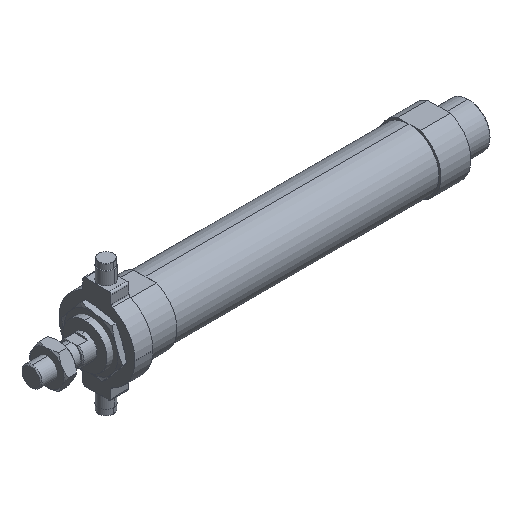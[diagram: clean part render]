
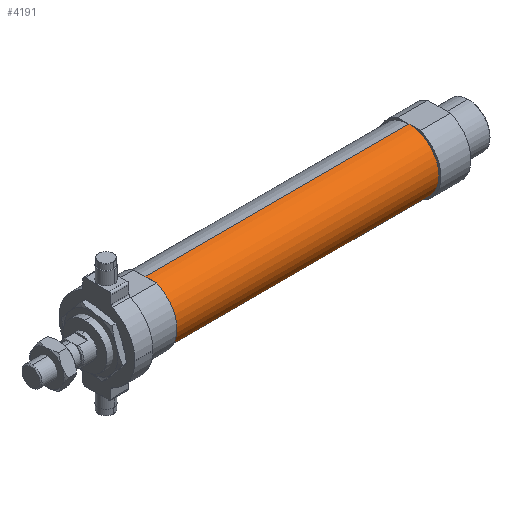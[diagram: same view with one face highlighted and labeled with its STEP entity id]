
A CAD part, isometric view. The second image highlights one B-rep face of the part: STEP entity #4191.
In plain terms, the highlighted cylindrical face has radius 15 mm (diameter 30 mm), a partial arc.
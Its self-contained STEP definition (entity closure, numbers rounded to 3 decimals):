
#63 = AXIS2_PLACEMENT_3D ( 'NONE', #3475, #1224, #561 ) ;
#209 = CARTESIAN_POINT ( 'NONE',  ( -6.469, 0., 15. ) ) ;
#305 = EDGE_LOOP ( 'NONE', ( #886, #2725, #2090, #322 ) ) ;
#322 = ORIENTED_EDGE ( 'NONE', *, *, #1768, .F. ) ;
#542 = VERTEX_POINT ( 'NONE', #3448 ) ;
#561 = DIRECTION ( 'NONE',  ( 0., 0., 1. ) ) ;
#873 = DIRECTION ( 'NONE',  ( -1., 0., 0. ) ) ;
#886 = ORIENTED_EDGE ( 'NONE', *, *, #1704, .F. ) ;
#1018 = FACE_OUTER_BOUND ( 'NONE', #305, .T. ) ;
#1036 = VERTEX_POINT ( 'NONE', #2594 ) ;
#1187 = CIRCLE ( 'NONE', #1262, 15. ) ;
#1224 = DIRECTION ( 'NONE',  ( -1., 0., 0. ) ) ;
#1250 = CARTESIAN_POINT ( 'NONE',  ( 189., 0., 15. ) ) ;
#1262 = AXIS2_PLACEMENT_3D ( 'NONE', #1967, #2272, #4598 ) ;
#1704 = EDGE_CURVE ( 'NONE', #542, #1036, #4279, .T. ) ;
#1721 = VECTOR ( 'NONE', #4059, 1000. ) ;
#1768 = EDGE_CURVE ( 'NONE', #1036, #4596, #2334, .T. ) ;
#1796 = CARTESIAN_POINT ( 'NONE',  ( -6.469, 0., -15. ) ) ;
#1967 = CARTESIAN_POINT ( 'NONE',  ( 189., 0., 0. ) ) ;
#1986 = EDGE_CURVE ( 'NONE', #542, #4513, #1187, .T. ) ;
#2090 = ORIENTED_EDGE ( 'NONE', *, *, #2988, .T. ) ;
#2136 = DIRECTION ( 'NONE',  ( -1., 0., 0. ) ) ;
#2263 = CARTESIAN_POINT ( 'NONE',  ( 57., 0., 0. ) ) ;
#2272 = DIRECTION ( 'NONE',  ( -1., 0., 0. ) ) ;
#2334 = CIRCLE ( 'NONE', #4569, 15. ) ;
#2594 = CARTESIAN_POINT ( 'NONE',  ( 57., 0., -15. ) ) ;
#2725 = ORIENTED_EDGE ( 'NONE', *, *, #1986, .T. ) ;
#2808 = LINE ( 'NONE', #209, #4481 ) ;
#2988 = EDGE_CURVE ( 'NONE', #4513, #4596, #2808, .T. ) ;
#3256 = CARTESIAN_POINT ( 'NONE',  ( 57., 0., 15. ) ) ;
#3448 = CARTESIAN_POINT ( 'NONE',  ( 189., 0., -15. ) ) ;
#3475 = CARTESIAN_POINT ( 'NONE',  ( -6.469, 0., 0. ) ) ;
#3779 = DIRECTION ( 'NONE',  ( 0., 0., 1. ) ) ;
#4059 = DIRECTION ( 'NONE',  ( -1., 0., 0. ) ) ;
#4191 = ADVANCED_FACE ( 'NONE', ( #1018 ), #4284, .T. ) ;
#4279 = LINE ( 'NONE', #1796, #1721 ) ;
#4284 = CYLINDRICAL_SURFACE ( 'NONE', #63, 15. ) ;
#4481 = VECTOR ( 'NONE', #2136, 1000. ) ;
#4513 = VERTEX_POINT ( 'NONE', #1250 ) ;
#4569 = AXIS2_PLACEMENT_3D ( 'NONE', #2263, #873, #3779 ) ;
#4596 = VERTEX_POINT ( 'NONE', #3256 ) ;
#4598 = DIRECTION ( 'NONE',  ( 0., 0., 1. ) ) ;
